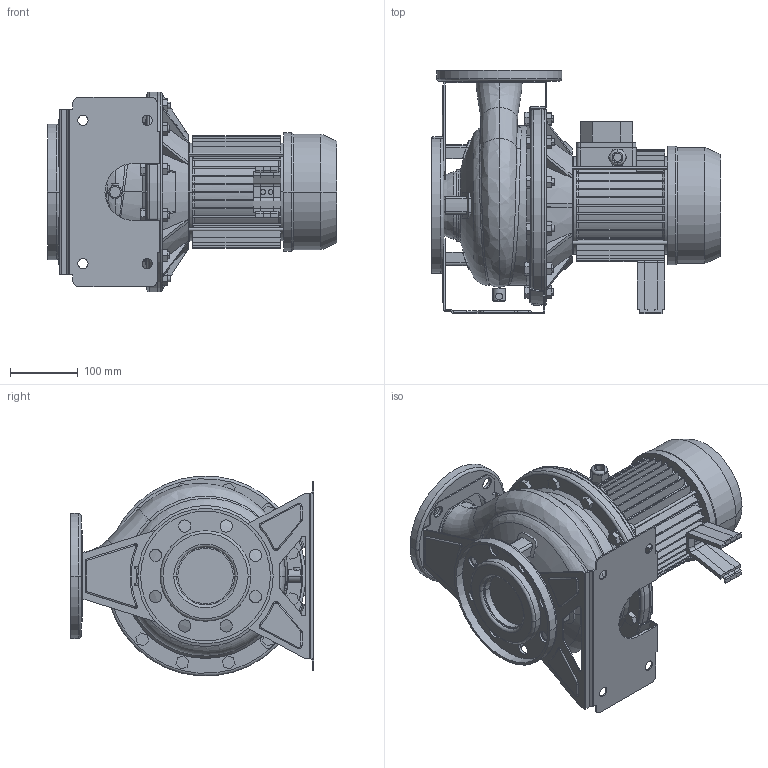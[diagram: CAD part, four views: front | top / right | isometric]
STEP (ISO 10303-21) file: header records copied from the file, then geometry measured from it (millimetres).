
FILE_DESCRIPTION((''),'2;1');
FILE_NAME('3M4_65-160_1_5_ASM','2009-05-26T',('Utente'),('"Ebara Pumps Europe +39.444.706811"'),'PRO/ENGINEER BY PARAMETRIC TECHNOLOGY CORPORATION, 2008400','PRO/ENGINEER BY PARAMETRIC TECHNOLOGY CORPORATION, 2008400','');
FILE_SCHEMA(('AUTOMOTIVE_DESIGN { 1 0 10303 214 1 1 1 1 }'));
Length unit declared in the file: millimetre
Products named in the file (11): CORPO_65-160; ASP_65-160; FLANGIA_DIN_80_8_FORI; MAND_65-160; FLANGIA_DIN_65; BASE_3M_65-160; CORPO_SALDATO_65-160_ASM; SUPPORTO_3M_230_90; MEC_90S_2; SOSTEGNO_72006; 3M4_65-160_1_5_ASM
Assembly tree (11 placements, depth 3):
  3M4_65-160_1_5_ASM
    CORPO_SALDATO_65-160_ASM
      CORPO_65-160
      ASP_65-160
      FLANGIA_DIN_80_8_FORI
      MAND_65-160
      FLANGIA_DIN_65
      BASE_3M_65-160
    SUPPORTO_3M_230_90
    MEC_90S_2
    SOSTEGNO_72006  x2
Bounding box: 427.5 x 360 x 295.13 mm (x, y, z)
Volume: 10716582 mm3; surface area: 1228197.8 mm2
Topology: 14 solids, 14 shells, 1158 faces, 2946 edges, 1884 vertices
Faces by surface type: plane 634, cylinder 331, cone 96, torus 60, bspline 31, sphere 6
Entity records: 37647 total; most frequent: CARTESIAN_POINT 9551, DIRECTION 5876, ORIENTED_EDGE 5724, EDGE_CURVE 2862, AXIS2_PLACEMENT_3D 2117, VERTEX_POINT 1828, VECTOR 1642, LINE 1642
